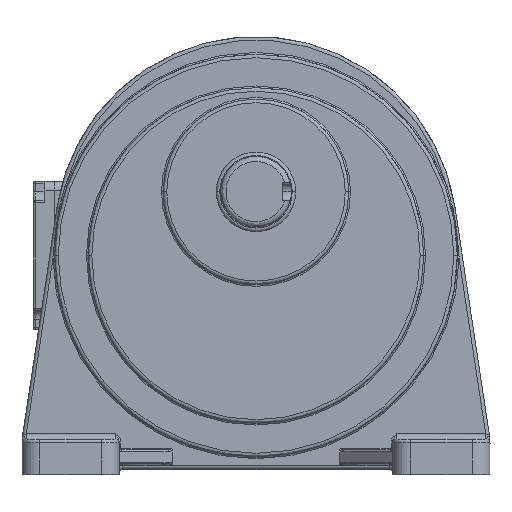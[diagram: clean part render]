
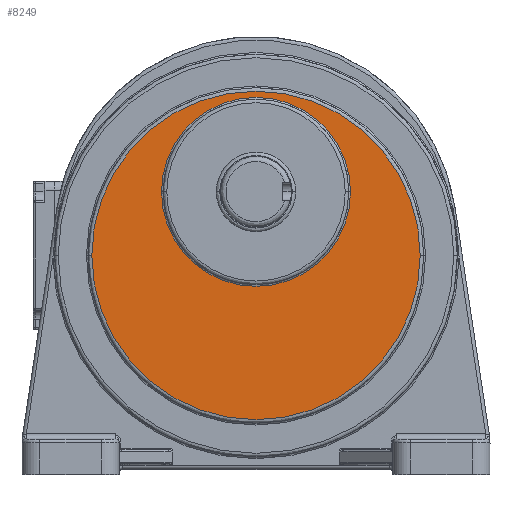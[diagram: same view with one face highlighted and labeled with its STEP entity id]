
A CAD part, top view. The second image highlights one B-rep face of the part: STEP entity #8249.
In plain terms, the highlighted planar face has unit normal (0, 0, 1).
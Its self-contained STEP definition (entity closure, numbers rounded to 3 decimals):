
#440 = AXIS2_PLACEMENT_3D ( 'NONE', #84686, #84688, #84690 ) ;
#444 = AXIS2_PLACEMENT_3D ( 'NONE', #84708, #84710, #84711 ) ;
#1451 = CARTESIAN_POINT ( 'NONE',  ( 93., 0., 145.5 ) ) ;
#1452 = CARTESIAN_POINT ( 'NONE',  ( -93., 0., 145.5 ) ) ;
#1454 = CARTESIAN_POINT ( 'NONE',  ( 53.5, 36., 145.5 ) ) ;
#1456 = CARTESIAN_POINT ( 'NONE',  ( -53.5, 36., 145.5 ) ) ;
#8249 = ADVANCED_FACE ( 'NONE', ( #52512, #51702 ), #33317, .T. ) ;
#14778 = CARTESIAN_POINT ( 'NONE',  ( 0., 0., 145.5 ) ) ;
#14782 = DIRECTION ( 'NONE',  ( 0., 0., 1. ) ) ;
#14783 = DIRECTION ( 'NONE',  ( -1., 0., 0. ) ) ;
#14784 = CARTESIAN_POINT ( 'NONE',  ( 0., 36., 145.5 ) ) ;
#14785 = DIRECTION ( 'NONE',  ( 0., 0., 1. ) ) ;
#14786 = DIRECTION ( 'NONE',  ( 1., 0., 0. ) ) ;
#31048 = EDGE_CURVE ( 'NONE', #64373, #64374, #45718, .T. ) ;
#31049 = EDGE_CURVE ( 'NONE', #64375, #64376, #45721, .T. ) ;
#31670 = EDGE_CURVE ( 'NONE', #64376, #64375, #83279, .T. ) ;
#31680 = EDGE_CURVE ( 'NONE', #64374, #64373, #83282, .T. ) ;
#33317 = PLANE ( 'NONE',  #52542 ) ;
#33318 = CARTESIAN_POINT ( 'NONE',  ( 0., 0., 145.5 ) ) ;
#33319 = DIRECTION ( 'NONE',  ( 0., 0., 1. ) ) ;
#33320 = DIRECTION ( 'NONE',  ( 1., 0., 0. ) ) ;
#45718 = CIRCLE ( 'NONE', #80448, 93. ) ;
#45721 = CIRCLE ( 'NONE', #80450, 53.5 ) ;
#51702 = FACE_OUTER_BOUND ( 'NONE', #58407, .T. ) ;
#52512 = FACE_BOUND ( 'NONE', #58405, .T. ) ;
#52542 = AXIS2_PLACEMENT_3D ( 'NONE', #33318, #33319, #33320 ) ;
#53000 = ORIENTED_EDGE ( 'NONE', *, *, #31049, .F. ) ;
#53001 = ORIENTED_EDGE ( 'NONE', *, *, #31670, .F. ) ;
#53002 = ORIENTED_EDGE ( 'NONE', *, *, #31048, .T. ) ;
#53003 = ORIENTED_EDGE ( 'NONE', *, *, #31680, .T. ) ;
#58405 = EDGE_LOOP ( 'NONE', ( #53000, #53001 ) ) ;
#58407 = EDGE_LOOP ( 'NONE', ( #53002, #53003 ) ) ;
#64373 = VERTEX_POINT ( 'NONE', #1451 ) ;
#64374 = VERTEX_POINT ( 'NONE', #1452 ) ;
#64375 = VERTEX_POINT ( 'NONE', #1454 ) ;
#64376 = VERTEX_POINT ( 'NONE', #1456 ) ;
#80448 = AXIS2_PLACEMENT_3D ( 'NONE', #14778, #14782, #14783 ) ;
#80450 = AXIS2_PLACEMENT_3D ( 'NONE', #14784, #14785, #14786 ) ;
#83279 = CIRCLE ( 'NONE', #440, 53.5 ) ;
#83282 = CIRCLE ( 'NONE', #444, 93. ) ;
#84686 = CARTESIAN_POINT ( 'NONE',  ( 0., 36., 145.5 ) ) ;
#84688 = DIRECTION ( 'NONE',  ( 0., 0., 1. ) ) ;
#84690 = DIRECTION ( 'NONE',  ( 1., 0., 0. ) ) ;
#84708 = CARTESIAN_POINT ( 'NONE',  ( 0., 0., 145.5 ) ) ;
#84710 = DIRECTION ( 'NONE',  ( 0., 0., 1. ) ) ;
#84711 = DIRECTION ( 'NONE',  ( -1., 0., 0. ) ) ;
